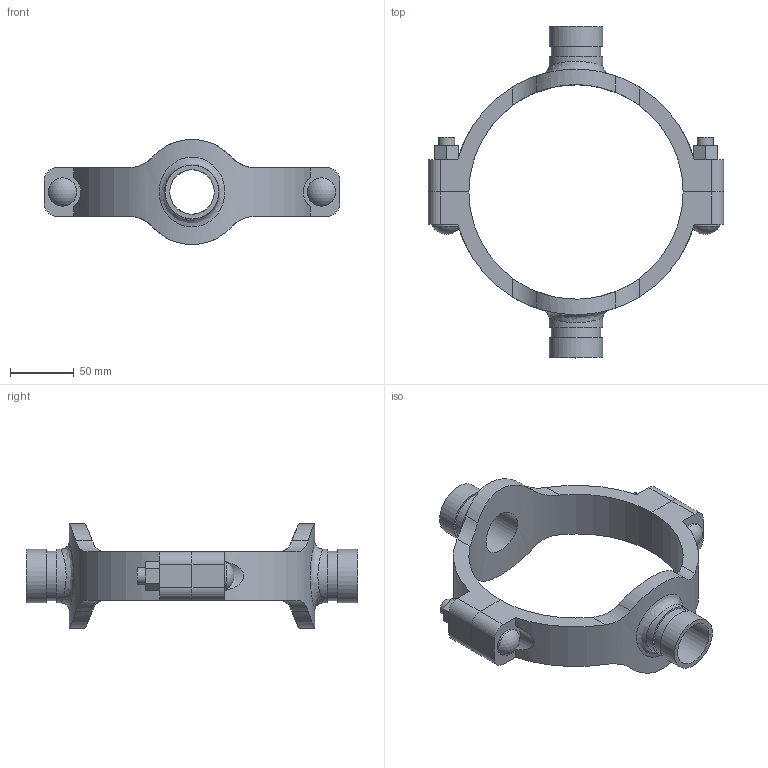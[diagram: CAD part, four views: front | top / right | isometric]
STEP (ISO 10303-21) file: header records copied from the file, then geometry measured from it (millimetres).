
FILE_DESCRIPTION(/* description */ ('VIC MECH-T BRANCH OUTLET CROSS STYLE 920N (GRVD)','CAx-IF Rec.Pracs.---Representation and Presentation of Product Manufacturing Information (PMI)---4.0---2014-10-13'),/* implementation_level */ '2;1');
FILE_NAME(/* name */ 'C:\Users\Vjadhav\AppData\Roaming\Autodesk\ApplicationPlugins\Back Up\Victaulic_IPS_Mechanical-Cross Outlet_Style 920N (OGS)\Victaulic_IPS_Mechanical-Cross Outlet_06.0x01.25x01.25 (150x32x32).stp',/* time_stamp */ '2020-08-06T19:44:36+05:00',/* author */ ('Vjadhav'),/* organization */ ('Victaulic'),/* preprocessor_version */ 'ST-DEVELOPER v17.2',/* originating_system */ 'Autodesk Inventor 2019',/* authorisation */ '');
FILE_SCHEMA (('AP242_MANAGED_MODEL_BASED_3D_ENGINEERING_MIM_LF { 1 0 10303 442 1 1 4 }'));
Length unit declared in the file: inch
Products named in the file (3): 920NG-06.0x01.25x01.25; 920NG-06.0x01.25; 920NG-06.0x01.25_1
Assembly tree (2 placements, depth 2):
  920NG-06.0x01.25x01.25
    920NG-06.0x01.25
    920NG-06.0x01.25_1
Bounding box: 231.9 x 260.6 x 82.42 mm (x, y, z)
Volume: 402936.7 mm3; surface area: 107408.5 mm2
Topology: 2 solids, 2 shells, 108 faces, 274 edges, 186 vertices
Faces by surface type: plane 54, cylinder 50, sphere 2, bspline 2
Full cylindrical faces by diameter (mm): 12.7 x4, 22.225 x2, 34.925 x2, 38.989 x2, 42.164 x4
Entity records: 4326 total; most frequent: CARTESIAN_POINT 1445, DIRECTION 552, ORIENTED_EDGE 548, EDGE_CURVE 274, AXIS2_PLACEMENT_3D 201, VERTEX_POINT 186, LINE 150, VECTOR 150
